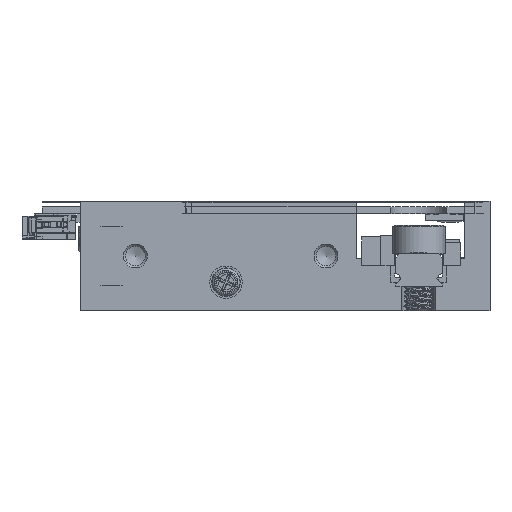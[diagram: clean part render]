
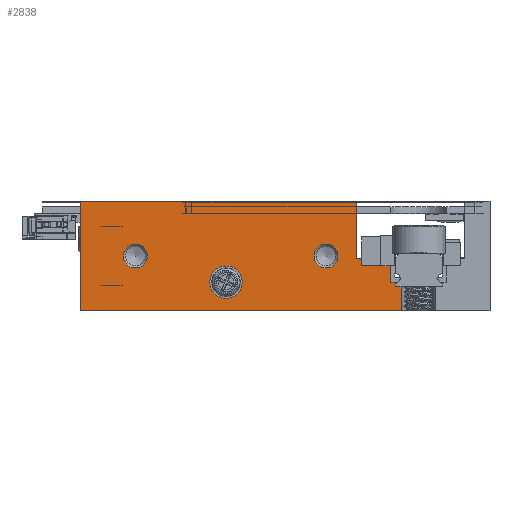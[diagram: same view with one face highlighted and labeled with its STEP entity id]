
A CAD part, left-side view. The second image highlights one B-rep face of the part: STEP entity #2838.
In plain terms, the highlighted planar face has unit normal (-1, 0, 0).
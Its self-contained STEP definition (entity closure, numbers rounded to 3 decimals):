
#1781=FACE_BOUND('',#6942,.T.);
#1782=FACE_BOUND('',#6943,.T.);
#1783=FACE_BOUND('',#6944,.T.);
#1784=FACE_BOUND('',#6945,.T.);
#2838=ADVANCED_FACE('',(#1781,#1782,#1783,#1784),#4506,.F.);
#4506=PLANE('',#33002);
#6942=EDGE_LOOP('',(#10453));
#6943=EDGE_LOOP('',(#10454));
#6944=EDGE_LOOP('',(#10455));
#6945=EDGE_LOOP('',(#10456,#10457,#10458,#10459,#10460,#10461,#10462,#10463));
#9307=CIRCLE('',#32999,1.7);
#9308=CIRCLE('',#33000,1.25);
#9309=CIRCLE('',#33001,1.25);
#10453=ORIENTED_EDGE('',*,*,#22192,.T.);
#10454=ORIENTED_EDGE('',*,*,#22193,.T.);
#10455=ORIENTED_EDGE('',*,*,#22194,.T.);
#10456=ORIENTED_EDGE('',*,*,#22172,.T.);
#10457=ORIENTED_EDGE('',*,*,#22195,.T.);
#10458=ORIENTED_EDGE('',*,*,#22196,.T.);
#10459=ORIENTED_EDGE('',*,*,#22197,.T.);
#10460=ORIENTED_EDGE('',*,*,#22198,.T.);
#10461=ORIENTED_EDGE('',*,*,#22150,.T.);
#10462=ORIENTED_EDGE('',*,*,#22124,.F.);
#10463=ORIENTED_EDGE('',*,*,#22134,.T.);
#19074=VERTEX_POINT('',#44518);
#19075=VERTEX_POINT('',#44520);
#19082=VERTEX_POINT('',#44537);
#19093=VERTEX_POINT('',#44569);
#19112=VERTEX_POINT('',#44613);
#19128=VERTEX_POINT('',#44654);
#19129=VERTEX_POINT('',#44656);
#19130=VERTEX_POINT('',#44658);
#19131=VERTEX_POINT('',#44660);
#19132=VERTEX_POINT('',#44662);
#19133=VERTEX_POINT('',#44664);
#22124=EDGE_CURVE('',#19074,#19075,#26468,.T.);
#22134=EDGE_CURVE('',#19074,#19082,#26476,.T.);
#22150=EDGE_CURVE('',#19093,#19075,#26492,.T.);
#22172=EDGE_CURVE('',#19082,#19112,#26503,.T.);
#22192=EDGE_CURVE('',#19128,#19128,#9307,.T.);
#22193=EDGE_CURVE('',#19129,#19129,#9308,.T.);
#22194=EDGE_CURVE('',#19130,#19130,#9309,.T.);
#22195=EDGE_CURVE('',#19112,#19131,#26522,.T.);
#22196=EDGE_CURVE('',#19131,#19132,#26523,.T.);
#22197=EDGE_CURVE('',#19132,#19133,#26524,.T.);
#22198=EDGE_CURVE('',#19133,#19093,#26525,.T.);
#26468=LINE('',#44519,#29731);
#26476=LINE('',#44538,#29739);
#26492=LINE('',#44568,#29755);
#26503=LINE('',#44614,#29766);
#26522=LINE('',#44659,#29785);
#26523=LINE('',#44661,#29786);
#26524=LINE('',#44663,#29787);
#26525=LINE('',#44665,#29788);
#29731=VECTOR('',#35757,1.);
#29739=VECTOR('',#35771,1.);
#29755=VECTOR('',#35795,1.);
#29766=VECTOR('',#35836,1.);
#29785=VECTOR('',#35871,1.);
#29786=VECTOR('',#35872,1.);
#29787=VECTOR('',#35873,1.);
#29788=VECTOR('',#35874,1.);
#32999=AXIS2_PLACEMENT_3D('',#44653,#35865,#35866);
#33000=AXIS2_PLACEMENT_3D('',#44655,#35867,#35868);
#33001=AXIS2_PLACEMENT_3D('',#44657,#35869,#35870);
#33002=AXIS2_PLACEMENT_3D('',#44666,#35875,#35876);
#35757=DIRECTION('',(0.,-1.,0.));
#35771=DIRECTION('',(0.,0.,-1.));
#35795=DIRECTION('',(0.,0.,1.));
#35836=DIRECTION('',(0.,-1.,0.));
#35865=DIRECTION('',(1.,0.,0.));
#35866=DIRECTION('',(0.,1.,0.));
#35867=DIRECTION('',(1.,0.,0.));
#35868=DIRECTION('',(0.,1.,0.));
#35869=DIRECTION('',(1.,0.,0.));
#35870=DIRECTION('',(0.,1.,0.));
#35871=DIRECTION('',(0.,0.,1.));
#35872=DIRECTION('',(0.,1.,0.));
#35873=DIRECTION('',(0.,0.,1.));
#35874=DIRECTION('',(0.,1.,0.));
#35875=DIRECTION('',(1.,0.,0.));
#35876=DIRECTION('',(0.,1.,0.));
#44518=CARTESIAN_POINT('',(-15.,43.,11.5));
#44519=CARTESIAN_POINT('',(-15.,43.,11.5));
#44520=CARTESIAN_POINT('',(-15.,14.05,11.5));
#44537=CARTESIAN_POINT('',(-15.,43.,0.));
#44538=CARTESIAN_POINT('',(-15.,43.,11.5));
#44568=CARTESIAN_POINT('',(-15.,14.05,5.5));
#44569=CARTESIAN_POINT('',(-15.,14.05,5.5));
#44613=CARTESIAN_POINT('',(-15.,9.25,0.));
#44614=CARTESIAN_POINT('',(-15.,43.,0.));
#44653=CARTESIAN_POINT('',(-15.,27.7,3.));
#44654=CARTESIAN_POINT('',(-15.,29.4,3.));
#44655=CARTESIAN_POINT('',(-15.,37.2,5.75));
#44656=CARTESIAN_POINT('',(-15.,38.45,5.75));
#44657=CARTESIAN_POINT('',(-15.,17.2,5.75));
#44658=CARTESIAN_POINT('',(-15.,18.45,5.75));
#44659=CARTESIAN_POINT('',(-15.,9.25,-0.3));
#44660=CARTESIAN_POINT('',(-15.,9.25,3.));
#44661=CARTESIAN_POINT('',(-15.,4.6,3.));
#44662=CARTESIAN_POINT('',(-15.,10.4,3.));
#44663=CARTESIAN_POINT('',(-15.,10.4,3.));
#44664=CARTESIAN_POINT('',(-15.,10.4,5.5));
#44665=CARTESIAN_POINT('',(-15.,10.4,5.5));
#44666=CARTESIAN_POINT('',(-15.,43.,11.5));
